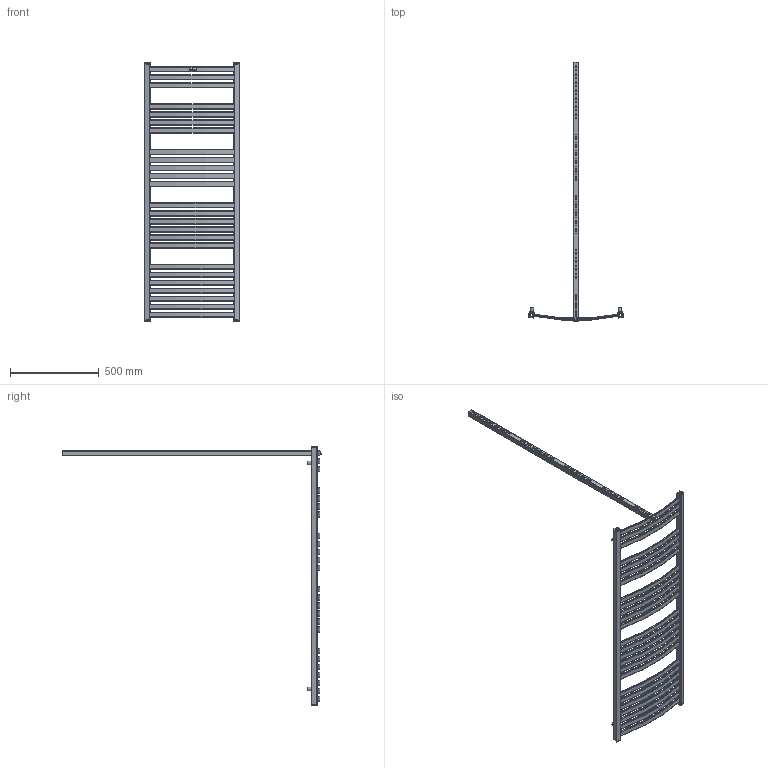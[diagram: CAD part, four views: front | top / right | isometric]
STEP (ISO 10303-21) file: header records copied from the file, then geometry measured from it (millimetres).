
FILE_DESCRIPTION( ( 'Unknown' ), '1' );
FILE_NAME( 'D:/Alplast sp. j/Witryna zespoBu - Projekty/Archiwum/Grzejniki Archiwum/Projekty/STANDARD/AK-EL/AK6-500EL.stp', 'Unknown', ( 'Unknown' ), ( 'Unknown' ), 'PSStep 10.1', 'Unknown', ' ' );
FILE_SCHEMA( ( 'AUTOMOTIVE_DESIGN { 1 0 10303 214 1 1 1 1 }' ) );
Length unit declared in the file: millimetre
Products named in the file (5): Assem1; zaslepka kwadrat otwor; tulejka kat 12stopni; kana³  poziomy lukowy L-500; AK6-EPEL
Bounding box: 534.72 x 1461 x 1450 mm (x, y, z)
Volume: 2021763.8 mm3; surface area: 2709651.6 mm2
Topology: 39 solids, 39 shells, 1262 faces, 3542 edges, 2368 vertices
Faces by surface type: plane 556, cylinder 488, torus 218
Full cylindrical faces by diameter (mm): 16 x5, 18 x5, 18.631 x5, 23 x5
Entity records: 11252 total; most frequent: DIRECTION 1636, CARTESIAN_POINT 1568, ORIENTED_EDGE 1516, EDGE_CURVE 758, AXIS2_PLACEMENT_3D 578, VERTEX_POINT 510, LINE 480, VECTOR 480
